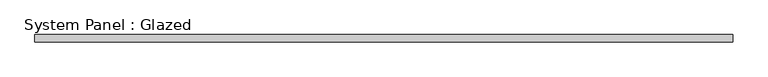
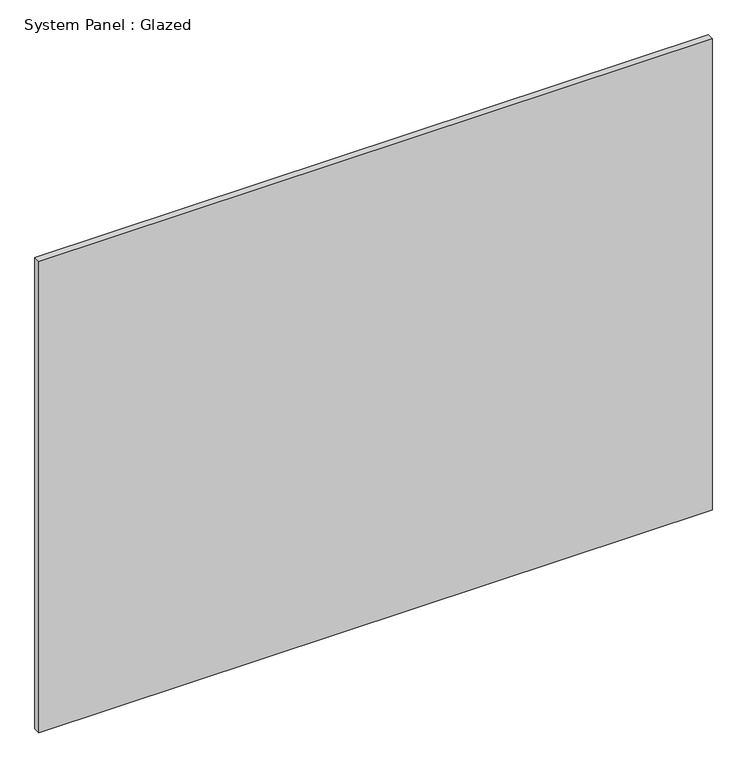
"""IFC4 building model written with IfcOpenShell, lengths in millimetres: plate geometry, System Panel : Glazed."""

from ifc_helpers import new_model, si_unit, origin, origin_with_axes, place, context, project, spatial, polyline, outline, extrude, source, transform, mapped, element, save


def system_panel_glazed_2fae776c(model_context):
    return source(origin(), model_context, "Body", "SweptSolid", [
        extrude(outline(polyline([(1235.2309405, 19.05), (-1235.2309405, 19.05), (-1235.2309405, 44.45), (1235.2309405, 44.45), (1235.2309405, 19.05)])), origin_with_axes(), (0.0, 0.0, 1.0), 1828.8),
    ])


if __name__ == "__main__":
    model = new_model("IFC4")
    model_context = context("Model", 3, world=origin())
    ifc_project = project(units=[si_unit("LENGTHUNIT", "METRE", prefix="MILLI")], contexts=[model_context])
    site = spatial("IfcSite", under=ifc_project)
    building = spatial("IfcBuilding", under=site)
    placement = place(None, origin())
    system_panel_glazed_shape = system_panel_glazed_2fae776c(model_context)
    element("IfcPlate", 1, ObjectType="System Panel : Glazed", at=placement, inside=building, context=model_context, shape_type="MappedRepresentation", body=[
        mapped(system_panel_glazed_shape, transform((0.0, 0.0, 0.0), x_axis=(1.0, 0.0, 0.0), y_axis=(0.0, 1.0, 0.0), z_axis=(0.0, 0.0, 1.0))),
    ])
    save(model, "model.ifc")
